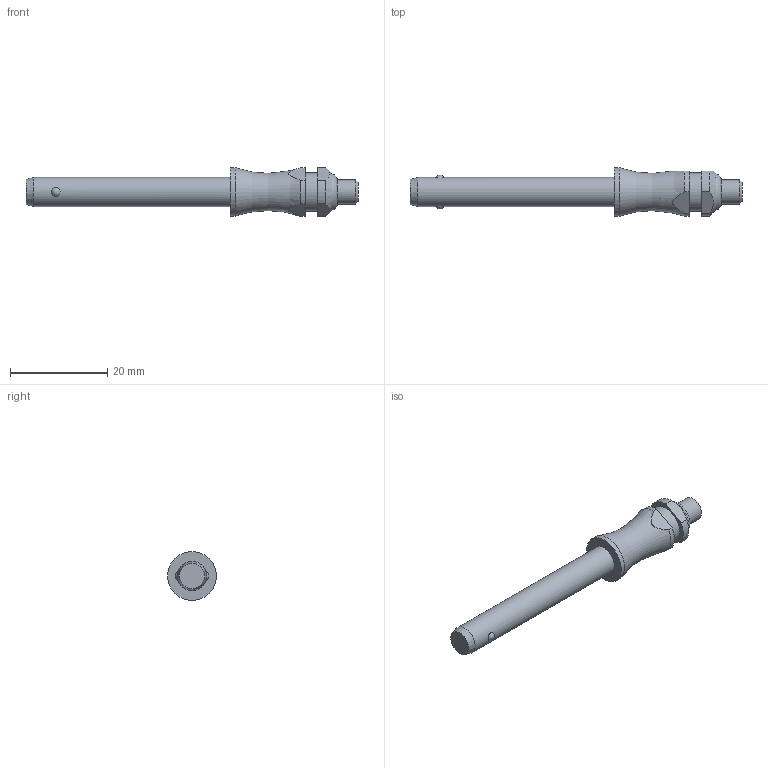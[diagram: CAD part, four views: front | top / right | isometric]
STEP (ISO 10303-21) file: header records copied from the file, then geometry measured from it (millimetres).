
FILE_DESCRIPTION( ( 'STEP AP203' ), '1' );
FILE_NAME( 'C:/Temp/Ganter_Step_05_03_2020/data/3_1/gn113_3/Stainless Steel-Ball lock pin GN 113.3-6-35 (deactivated).stp', '2020-03-12T08:18:17', ( 'License CC BY-ND 4.0' ), ( 'CADENAS' ), ' ', 'PARTsolutions', ' ' );
FILE_SCHEMA( ( 'CONFIG_CONTROL_DESIGN' ) );
Length unit declared in the file: millimetre
Products named in the file (1): _Stainless Steel-Ball lock pin GN 113.3-6-35 (deactivated)
Bounding box: 68.3 x 10 x 10 mm (x, y, z)
Volume: 2524.3 mm3; surface area: 1611.6 mm2
Topology: 1 solids, 1 shells, 29 faces, 61 edges, 40 vertices
Faces by surface type: plane 12, cylinder 10, cone 3, torus 2, sphere 2
Full cylindrical faces by diameter (mm): 5 x1, 6 x1, 7.9 x1, 10 x1
Entity records: 918 total; most frequent: CARTESIAN_POINT 288, DIRECTION 126, ORIENTED_EDGE 100, AXIS2_PLACEMENT_3D 54, EDGE_CURVE 50, EDGE_LOOP 44, VERTEX_POINT 38, FACE_OUTER_BOUND 35
